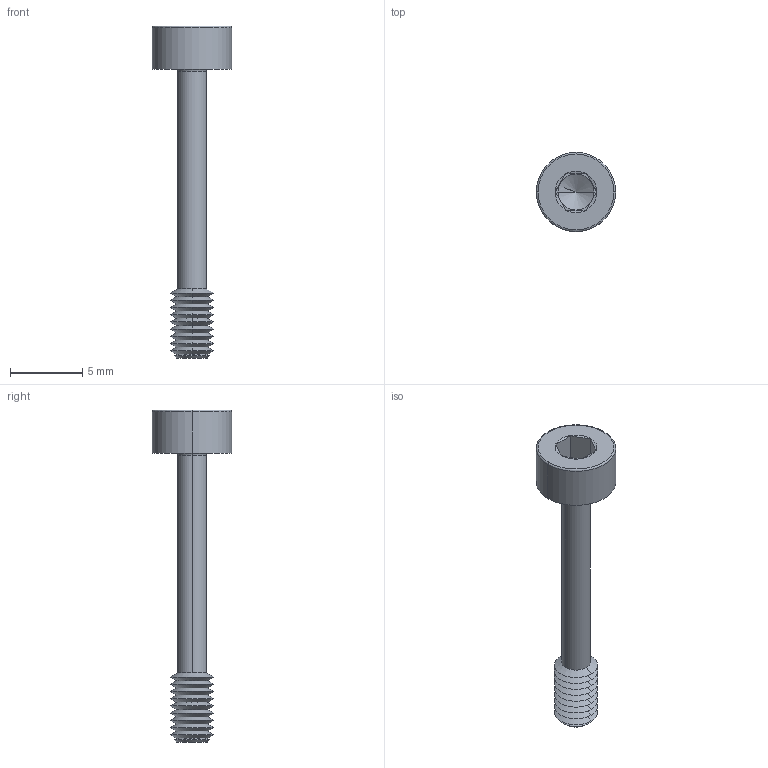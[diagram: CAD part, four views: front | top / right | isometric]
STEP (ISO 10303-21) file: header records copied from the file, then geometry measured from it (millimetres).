
FILE_DESCRIPTION (( 'STEP AP203' ), '1' );
FILE_NAME ('P0154.030-020-BL.step', '2024-06-17T11:23:05', ( '' ), ( '' ), 'SwSTEP 2.0', 'SolidWorks 2019', '' );
FILE_SCHEMA (( 'CONFIG_CONTROL_DESIGN' ));
Length unit declared in the file: millimetre
Products named in the file (1): P0154.030-020-BL
Bounding box: 5.5 x 5.5 x 23 mm (x, y, z)
Volume: 129 mm3; surface area: 292.3 mm2
Topology: 1 solids, 1 shells, 71 faces, 144 edges, 75 vertices
Faces by surface type: cone 48, plane 15, torus 4, cylinder 4
Entity records: 1887 total; most frequent: DIRECTION 352, CARTESIAN_POINT 315, ORIENTED_EDGE 284, AXIS2_PLACEMENT_3D 144, EDGE_CURVE 142, VERTEX_POINT 75, EDGE_LOOP 73, CIRCLE 72
